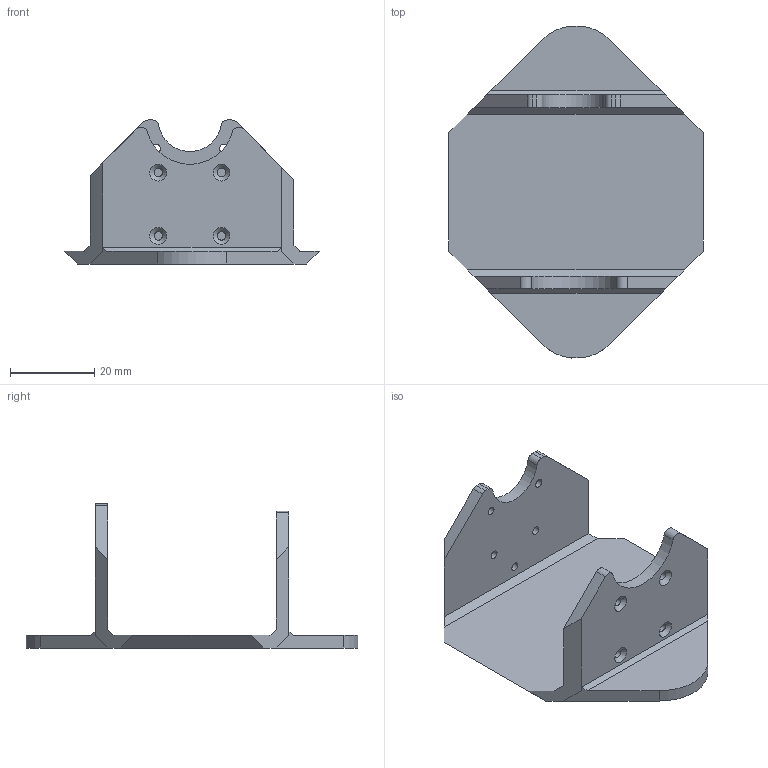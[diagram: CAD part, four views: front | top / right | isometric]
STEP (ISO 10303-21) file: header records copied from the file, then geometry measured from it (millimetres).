
FILE_DESCRIPTION(/* description */ (''),/* implementation_level */ '2;1');
FILE_NAME(/* name */ 'E:/云同步/我的坚果云/项目/SERVO DRIVER WITH ESP32/模型/E v6.step',/* time_stamp */ '2022-01-21T19:20:22+08:00',/* author */ (''),/* organization */ (''),/* preprocessor_version */ 'ST-DEVELOPER v18.1',/* originating_system */ 'Autodesk Translation Framework v10.10.0.1391',/* authorisation */ '');
FILE_SCHEMA (('AUTOMOTIVE_DESIGN { 1 0 10303 214 3 1 1 }'));
Length unit declared in the file: millimetre
Products named in the file (1): E
Bounding box: 60.37 x 78.76 x 34.19 mm (x, y, z)
Volume: 16923.4 mm3; surface area: 12361.9 mm2
Topology: 1 solids, 1 shells, 59 faces, 159 edges, 102 vertices
Faces by surface type: plane 31, cylinder 19, cone 9
Full cylindrical faces by diameter (mm): 1.98 x3, 2 x6
Entity records: 1903 total; most frequent: DIRECTION 327, CARTESIAN_POINT 321, ORIENTED_EDGE 318, EDGE_CURVE 159, LINE 111, VECTOR 111, AXIS2_PLACEMENT_3D 108, VERTEX_POINT 102
